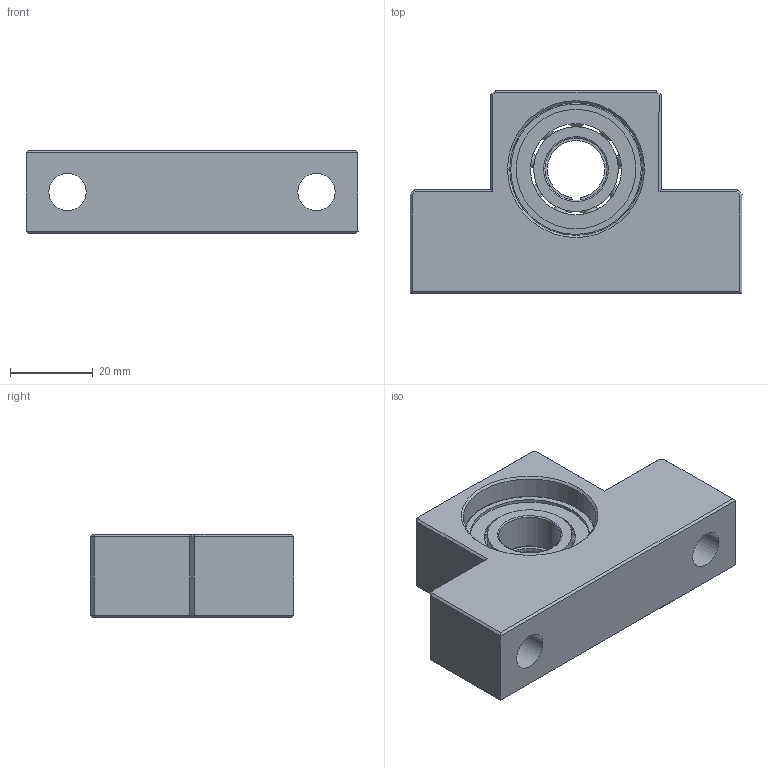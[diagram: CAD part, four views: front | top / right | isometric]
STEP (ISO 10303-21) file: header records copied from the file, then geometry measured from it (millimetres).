
FILE_DESCRIPTION (( 'STEP AP214' ), '1' );
FILE_NAME ('7.4035 EF15.STEP', '2026-03-06T08:05:12', ( '' ), ( '' ), 'SwSTEP 2.0', 'SolidWorks 2025', '' );
FILE_SCHEMA (( 'AUTOMOTIVE_DESIGN' ));
Length unit declared in the file: millimetre
Products named in the file (1): 7.4035 EF15
Bounding box: 80 x 49 x 20 mm (x, y, z)
Volume: 43882.4 mm3; surface area: 17871.4 mm2
Topology: 3 solids, 3 shells, 294 faces, 926 edges, 592 vertices
Faces by surface type: plane 99, sphere 89, bspline 56, cylinder 46, cone 4
Entity records: 17062 total; most frequent: CARTESIAN_POINT 7485, ORIENTED_EDGE 1746, DIRECTION 1302, EDGE_CURVE 873, VERTEX_POINT 575, AXIS2_PLACEMENT_3D 533, EDGE_LOOP 332, B_SPLINE_CURVE_WITH_KNOTS 316
